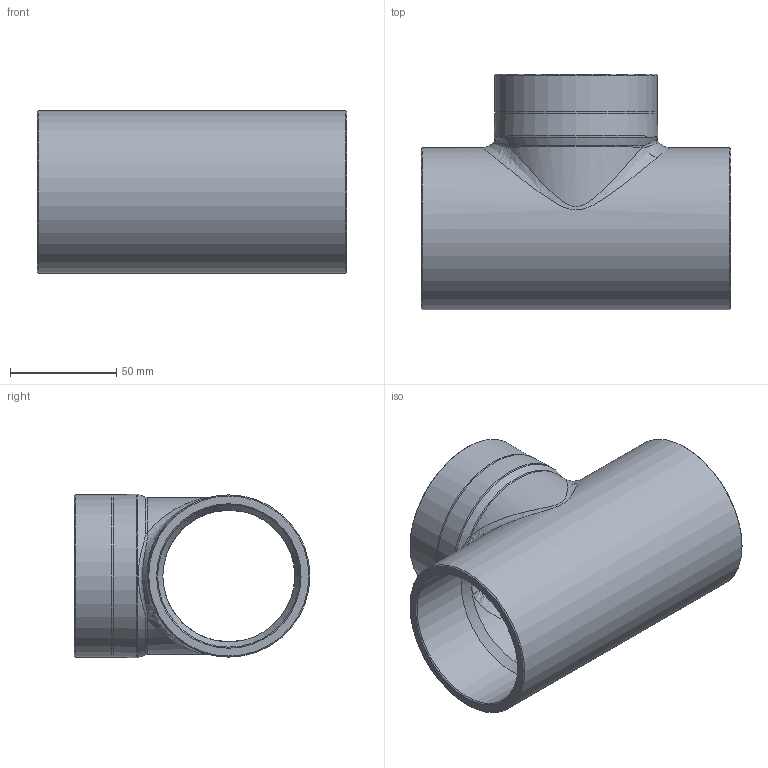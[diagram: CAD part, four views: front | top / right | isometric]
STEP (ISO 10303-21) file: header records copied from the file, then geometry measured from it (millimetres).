
FILE_DESCRIPTION((''),'2;1');
FILE_NAME('Z:\Technik\Management\Bouwmaten + markeringen\z-maattekeningen 3D\29000s\29000s_gem\29130258_3d.stp','2020-05-26T11:08:52',('vdvijverd'),(''),'Autodesk Inventor 2009','Autodesk Inventor 2009','');
FILE_SCHEMA(('AUTOMOTIVE_DESIGN { 1 0 10303 214 1 1 1 1 }'));
Length unit declared in the file: millimetre
Products named in the file (1): 29130258_3d
Bounding box: 145.6 x 110.97 x 77.11 mm (x, y, z)
Volume: 218603 mm3; surface area: 79861.9 mm2
Topology: 1 solids, 1 shells, 33 faces, 83 edges, 47 vertices
Faces by surface type: bspline 10, cone 10, cylinder 9, plane 3, torus 1
Full cylindrical faces by diameter (mm): 66.975 x2, 76.335 x1, 76.35 x1
Entity records: 2820 total; most frequent: CARTESIAN_POINT 2164, DIRECTION 132, ORIENTED_EDGE 108, AXIS2_PLACEMENT_3D 66, EDGE_LOOP 55, EDGE_CURVE 54, VERTEX_POINT 41, CIRCLE 34
